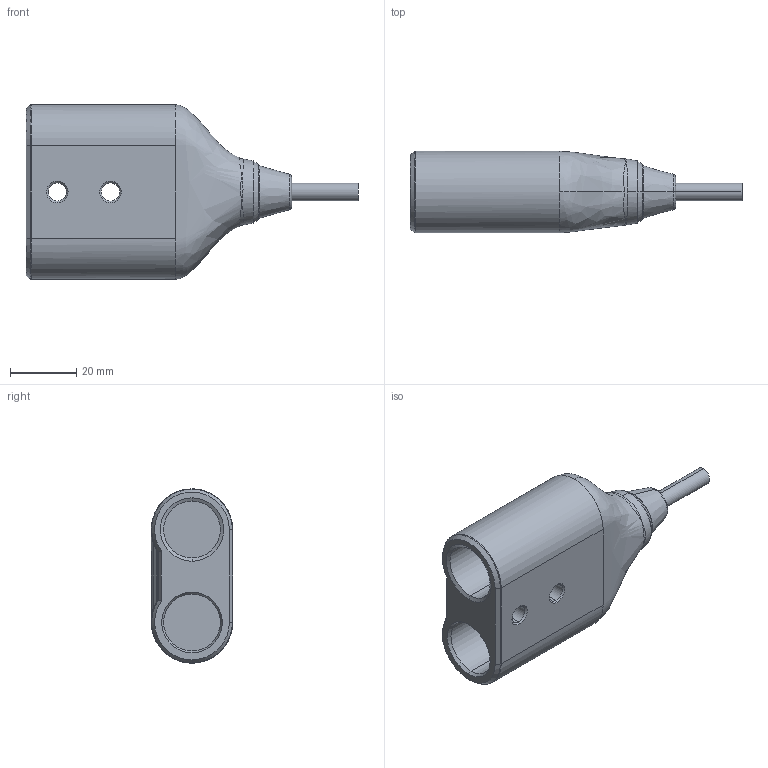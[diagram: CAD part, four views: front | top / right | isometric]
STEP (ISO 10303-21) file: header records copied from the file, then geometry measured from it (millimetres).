
FILE_DESCRIPTION (( 'STEP AP203' ), '1' );
FILE_NAME ('40510-029-一出二插座-0.STEP', '2011-09-19T08:19:09', ( 'Jeremy' ), ( '' ), 'SwSTEP 2.0', 'SolidWorks 2010', '' );
FILE_SCHEMA (( 'CONFIG_CONTROL_DESIGN' ));
Length unit declared in the file: millimetre
Products named in the file (1): 40510-029-一出二插座-0
Bounding box: 100 x 24.5 x 52.5 mm (x, y, z)
Volume: 57192.9 mm3; surface area: 13531.7 mm2
Topology: 1 solids, 1 shells, 1308 faces, 3810 edges, 2520 vertices
Faces by surface type: plane 1222, cylinder 30, torus 23, cone 17, bspline 16
Entity records: 48645 total; most frequent: CARTESIAN_POINT 14038, ORIENTED_EDGE 7610, DIRECTION 6462, EDGE_CURVE 3805, LINE 3638, VECTOR 3638, VERTEX_POINT 2520, AXIS2_PLACEMENT_3D 1412
